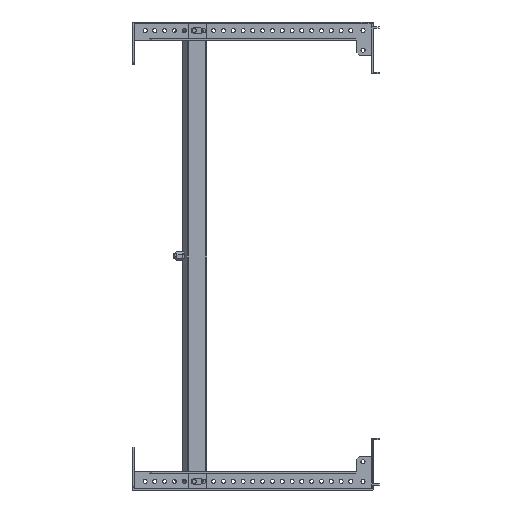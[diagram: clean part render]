
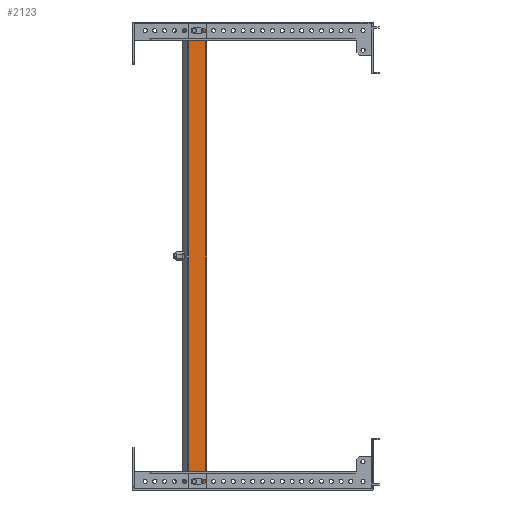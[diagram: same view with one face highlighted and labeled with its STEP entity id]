
A CAD part, front view. The second image highlights one B-rep face of the part: STEP entity #2123.
In plain terms, the highlighted planar face has unit normal (0, -1, 0).
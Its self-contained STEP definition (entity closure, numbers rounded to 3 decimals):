
#133 = LINE ( 'NONE', #23599, #1782 ) ;
#277 = AXIS2_PLACEMENT_3D ( 'NONE', #25230, #8871, #9328 ) ;
#413 = AXIS2_PLACEMENT_3D ( 'NONE', #11579, #25923, #28089 ) ;
#983 = CARTESIAN_POINT ( 'NONE',  ( 1112.302, -254., -91. ) ) ;
#984 = AXIS2_PLACEMENT_3D ( 'NONE', #7242, #4645, #23456 ) ;
#1067 = ORIENTED_EDGE ( 'NONE', *, *, #17655, .F. ) ;
#1705 = CARTESIAN_POINT ( 'NONE',  ( 1150.146, -254., -97.5 ) ) ;
#1725 = EDGE_CURVE ( 'NONE', #25965, #8890, #1869, .T. ) ;
#1782 = VECTOR ( 'NONE', #21277, 1000. ) ;
#1869 = LINE ( 'NONE', #11273, #18553 ) ;
#2123 = ADVANCED_FACE ( 'NONE', ( #10629, #15863, #25286 ), #4164, .F. ) ;
#2598 = VERTEX_POINT ( 'NONE', #12065 ) ;
#3086 = VERTEX_POINT ( 'NONE', #14958 ) ;
#3522 = VERTEX_POINT ( 'NONE', #12145 ) ;
#4164 = PLANE ( 'NONE',  #18597 ) ;
#4572 = CARTESIAN_POINT ( 'NONE',  ( 1112.302, -254., -84. ) ) ;
#4645 = DIRECTION ( 'NONE',  ( 0., 1., 0. ) ) ;
#4771 = EDGE_CURVE ( 'NONE', #6430, #5735, #8881, .T. ) ;
#4803 = EDGE_LOOP ( 'NONE', ( #9869, #14724, #12490, #25913, #25149 ) ) ;
#5016 = LINE ( 'NONE', #26585, #19236 ) ;
#5119 = CIRCLE ( 'NONE', #24831, 3.5 ) ;
#5428 = CARTESIAN_POINT ( 'NONE',  ( 1112.302, -254., 491. ) ) ;
#5503 = CARTESIAN_POINT ( 'NONE',  ( 1128.304, -254., 497.5 ) ) ;
#5735 = VERTEX_POINT ( 'NONE', #5428 ) ;
#6095 = DIRECTION ( 'NONE',  ( 0., -1., 0. ) ) ;
#6273 = LINE ( 'NONE', #4572, #26952 ) ;
#6430 = VERTEX_POINT ( 'NONE', #26634 ) ;
#6479 = EDGE_LOOP ( 'NONE', ( #13781, #17026, #18455, #11046, #24000 ) ) ;
#6517 = DIRECTION ( 'NONE',  ( 0., 0., 1. ) ) ;
#7045 = EDGE_CURVE ( 'NONE', #26473, #16666, #16643, .T. ) ;
#7242 = CARTESIAN_POINT ( 'NONE',  ( 1112.302, -254., 487.5 ) ) ;
#7468 = VECTOR ( 'NONE', #9108, 1000. ) ;
#7487 = CARTESIAN_POINT ( 'NONE',  ( 1108.802, -254., -87.5 ) ) ;
#7969 = CARTESIAN_POINT ( 'NONE',  ( 1120.302, -254., -91. ) ) ;
#8175 = VERTEX_POINT ( 'NONE', #21500 ) ;
#8288 = CIRCLE ( 'NONE', #28500, 3.5 ) ;
#8871 = DIRECTION ( 'NONE',  ( 0., -1., 0. ) ) ;
#8881 = CIRCLE ( 'NONE', #984, 3.5 ) ;
#8890 = VERTEX_POINT ( 'NONE', #5503 ) ;
#8957 = LINE ( 'NONE', #1705, #7468 ) ;
#9108 = DIRECTION ( 'NONE',  ( -1., 0., 0. ) ) ;
#9173 = CIRCLE ( 'NONE', #277, 3.5 ) ;
#9328 = DIRECTION ( 'NONE',  ( -1., 0., 0. ) ) ;
#9869 = ORIENTED_EDGE ( 'NONE', *, *, #15230, .T. ) ;
#10426 = EDGE_CURVE ( 'NONE', #16666, #22679, #9173, .T. ) ;
#10475 = DIRECTION ( 'NONE',  ( 0., 1., 0. ) ) ;
#10629 = FACE_OUTER_BOUND ( 'NONE', #19725, .T. ) ;
#11046 = ORIENTED_EDGE ( 'NONE', *, *, #28196, .F. ) ;
#11273 = CARTESIAN_POINT ( 'NONE',  ( 1128.304, -254., -100.859 ) ) ;
#11579 = CARTESIAN_POINT ( 'NONE',  ( 1112.302, -254., -87.5 ) ) ;
#11594 = DIRECTION ( 'NONE',  ( -1., 0., 0. ) ) ;
#12065 = CARTESIAN_POINT ( 'NONE',  ( 1120.302, -254., 484. ) ) ;
#12145 = CARTESIAN_POINT ( 'NONE',  ( 1105.802, -254., 497.5 ) ) ;
#12490 = ORIENTED_EDGE ( 'NONE', *, *, #16781, .T. ) ;
#13172 = DIRECTION ( 'NONE',  ( -1., 0., 0. ) ) ;
#13495 = CIRCLE ( 'NONE', #16441, 3.5 ) ;
#13781 = ORIENTED_EDGE ( 'NONE', *, *, #7045, .F. ) ;
#13961 = DIRECTION ( 'NONE',  ( 1., 0., 0. ) ) ;
#14065 = CARTESIAN_POINT ( 'NONE',  ( 1120.302, -254., 487.5 ) ) ;
#14410 = DIRECTION ( 'NONE',  ( -1., 0., 0. ) ) ;
#14724 = ORIENTED_EDGE ( 'NONE', *, *, #4771, .T. ) ;
#14958 = CARTESIAN_POINT ( 'NONE',  ( 1112.302, -254., -84. ) ) ;
#15230 = EDGE_CURVE ( 'NONE', #29714, #6430, #13495, .T. ) ;
#15863 = FACE_BOUND ( 'NONE', #4803, .T. ) ;
#16210 = EDGE_CURVE ( 'NONE', #8175, #2598, #5119, .T. ) ;
#16441 = AXIS2_PLACEMENT_3D ( 'NONE', #19906, #23930, #28865 ) ;
#16593 = DIRECTION ( 'NONE',  ( 1., 0., 0. ) ) ;
#16643 = LINE ( 'NONE', #20995, #26656 ) ;
#16666 = VERTEX_POINT ( 'NONE', #7969 ) ;
#16755 = VECTOR ( 'NONE', #13961, 1000. ) ;
#16781 = EDGE_CURVE ( 'NONE', #5735, #8175, #25231, .T. ) ;
#16964 = DIRECTION ( 'NONE',  ( 0., 1., 0. ) ) ;
#17026 = ORIENTED_EDGE ( 'NONE', *, *, #25927, .F. ) ;
#17041 = EDGE_CURVE ( 'NONE', #2598, #29714, #5016, .T. ) ;
#17655 = EDGE_CURVE ( 'NONE', #25965, #23948, #8957, .T. ) ;
#18121 = CARTESIAN_POINT ( 'NONE',  ( 1112.302, -254., 491. ) ) ;
#18455 = ORIENTED_EDGE ( 'NONE', *, *, #25416, .F. ) ;
#18553 = VECTOR ( 'NONE', #6517, 1000. ) ;
#18556 = CARTESIAN_POINT ( 'NONE',  ( 1112.302, -254., 484. ) ) ;
#18597 = AXIS2_PLACEMENT_3D ( 'NONE', #22985, #10475, #19893 ) ;
#18671 = CARTESIAN_POINT ( 'NONE',  ( 1128.304, -254., -97.5 ) ) ;
#19119 = DIRECTION ( 'NONE',  ( 1., 0., 0. ) ) ;
#19236 = VECTOR ( 'NONE', #14410, 1000. ) ;
#19445 = ORIENTED_EDGE ( 'NONE', *, *, #1725, .T. ) ;
#19725 = EDGE_LOOP ( 'NONE', ( #25749, #30426, #1067, #19445 ) ) ;
#19893 = DIRECTION ( 'NONE',  ( 1., 0., 0. ) ) ;
#19906 = CARTESIAN_POINT ( 'NONE',  ( 1112.302, -254., 487.5 ) ) ;
#20995 = CARTESIAN_POINT ( 'NONE',  ( 1112.302, -254., -91. ) ) ;
#21277 = DIRECTION ( 'NONE',  ( 0., 0., 1. ) ) ;
#21396 = CARTESIAN_POINT ( 'NONE',  ( 1105.802, -254., 497.5 ) ) ;
#21500 = CARTESIAN_POINT ( 'NONE',  ( 1120.302, -254., 491. ) ) ;
#21707 = CARTESIAN_POINT ( 'NONE',  ( 1120.302, -254., -84. ) ) ;
#22615 = DIRECTION ( 'NONE',  ( -1., 0., 0. ) ) ;
#22679 = VERTEX_POINT ( 'NONE', #21707 ) ;
#22985 = CARTESIAN_POINT ( 'NONE',  ( 1150.77, -254., 200. ) ) ;
#23004 = VECTOR ( 'NONE', #16593, 1000. ) ;
#23456 = DIRECTION ( 'NONE',  ( -1., 0., 0. ) ) ;
#23599 = CARTESIAN_POINT ( 'NONE',  ( 1105.802, -254., -97.5 ) ) ;
#23930 = DIRECTION ( 'NONE',  ( 0., 1., 0. ) ) ;
#23948 = VERTEX_POINT ( 'NONE', #28322 ) ;
#24000 = ORIENTED_EDGE ( 'NONE', *, *, #10426, .F. ) ;
#24831 = AXIS2_PLACEMENT_3D ( 'NONE', #14065, #16964, #11594 ) ;
#25149 = ORIENTED_EDGE ( 'NONE', *, *, #17041, .T. ) ;
#25230 = CARTESIAN_POINT ( 'NONE',  ( 1120.302, -254., -87.5 ) ) ;
#25231 = LINE ( 'NONE', #18121, #16755 ) ;
#25286 = FACE_BOUND ( 'NONE', #6479, .T. ) ;
#25416 = EDGE_CURVE ( 'NONE', #3086, #26410, #8288, .T. ) ;
#25749 = ORIENTED_EDGE ( 'NONE', *, *, #27832, .F. ) ;
#25913 = ORIENTED_EDGE ( 'NONE', *, *, #16210, .T. ) ;
#25923 = DIRECTION ( 'NONE',  ( 0., -1., 0. ) ) ;
#25927 = EDGE_CURVE ( 'NONE', #26410, #26473, #27036, .T. ) ;
#25965 = VERTEX_POINT ( 'NONE', #18671 ) ;
#26410 = VERTEX_POINT ( 'NONE', #7487 ) ;
#26473 = VERTEX_POINT ( 'NONE', #983 ) ;
#26585 = CARTESIAN_POINT ( 'NONE',  ( 1112.302, -254., 484. ) ) ;
#26634 = CARTESIAN_POINT ( 'NONE',  ( 1108.802, -254., 487.5 ) ) ;
#26656 = VECTOR ( 'NONE', #19119, 1000. ) ;
#26952 = VECTOR ( 'NONE', #22615, 1000. ) ;
#27036 = CIRCLE ( 'NONE', #413, 3.5 ) ;
#27459 = EDGE_CURVE ( 'NONE', #23948, #3522, #133, .T. ) ;
#27832 = EDGE_CURVE ( 'NONE', #3522, #8890, #28345, .T. ) ;
#28089 = DIRECTION ( 'NONE',  ( -1., 0., 0. ) ) ;
#28196 = EDGE_CURVE ( 'NONE', #22679, #3086, #6273, .T. ) ;
#28322 = CARTESIAN_POINT ( 'NONE',  ( 1105.802, -254., -97.5 ) ) ;
#28345 = LINE ( 'NONE', #21396, #23004 ) ;
#28500 = AXIS2_PLACEMENT_3D ( 'NONE', #29535, #6095, #13172 ) ;
#28865 = DIRECTION ( 'NONE',  ( -1., 0., 0. ) ) ;
#29535 = CARTESIAN_POINT ( 'NONE',  ( 1112.302, -254., -87.5 ) ) ;
#29714 = VERTEX_POINT ( 'NONE', #18556 ) ;
#30426 = ORIENTED_EDGE ( 'NONE', *, *, #27459, .F. ) ;
